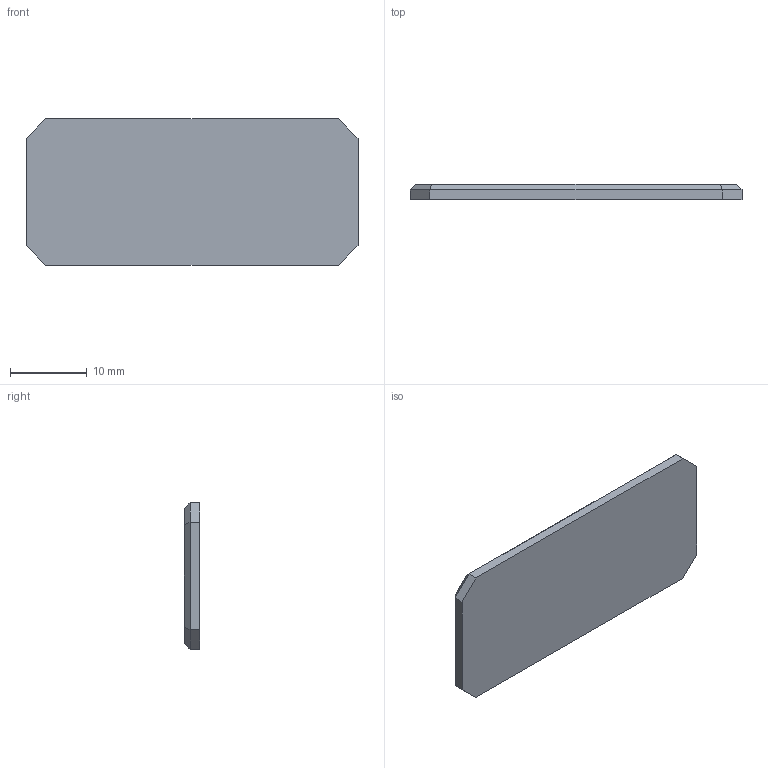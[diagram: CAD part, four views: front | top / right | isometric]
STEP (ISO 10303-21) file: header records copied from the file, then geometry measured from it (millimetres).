
FILE_DESCRIPTION(/* description */ (''),/* implementation_level */ '2;1');
FILE_NAME(/* name */ 'Lable Tag.step',/* time_stamp */ '2026-02-11T07:26:12-06:00',/* author */ (''),/* organization */ (''),/* preprocessor_version */ 'ST-DEVELOPER v20.1',/* originating_system */ 'Autodesk Translation Framework v14.24.0.0',/* authorisation */ '');
FILE_SCHEMA (('AUTOMOTIVE_DESIGN { 1 0 10303 214 3 1 1 }'));
Length unit declared in the file: inch
Products named in the file (1): Label
Bounding box: 43.18 x 2.03 x 19.05 mm (x, y, z)
Volume: 1173.1 mm3; surface area: 2109.2 mm2
Topology: 1 solids, 1 shells, 197 faces, 533 edges, 350 vertices
Faces by surface type: plane 99, bspline 98
Entity records: 7054 total; most frequent: CARTESIAN_POINT 2747, ORIENTED_EDGE 1066, DIRECTION 537, EDGE_CURVE 533, VERTEX_POINT 350, LINE 337, VECTOR 337, EDGE_LOOP 209
